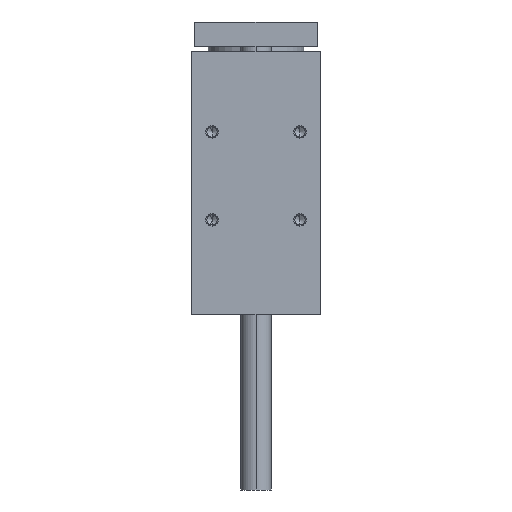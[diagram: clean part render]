
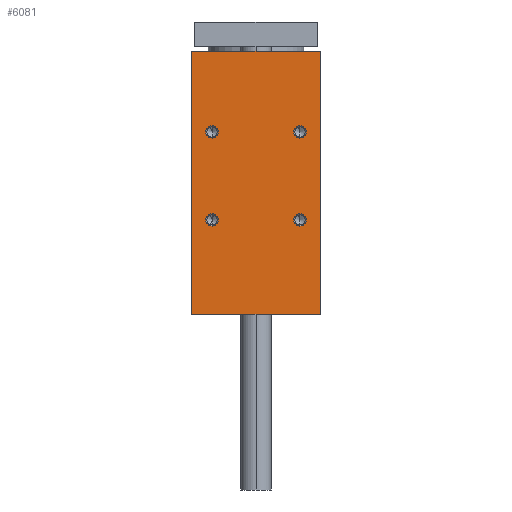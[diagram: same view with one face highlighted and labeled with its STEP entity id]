
A CAD part, left-side view. The second image highlights one B-rep face of the part: STEP entity #6081.
In plain terms, the highlighted planar face has unit normal (-1, 0, 0).
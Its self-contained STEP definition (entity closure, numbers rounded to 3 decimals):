
#256 = CIRCLE ( 'NONE', #7243, 5. ) ;
#286 = CIRCLE ( 'NONE', #9455, 5. ) ;
#326 = VERTEX_POINT ( 'NONE', #5766 ) ;
#388 = CIRCLE ( 'NONE', #5838, 5. ) ;
#503 = CARTESIAN_POINT ( 'NONE',  ( -94.5, 52.5, 87. ) ) ;
#530 = CARTESIAN_POINT ( 'NONE',  ( -94.5, 36., -56. ) ) ;
#564 = EDGE_CURVE ( 'NONE', #5391, #8778, #286, .T. ) ;
#588 = DIRECTION ( 'NONE',  ( 1., 0., 0. ) ) ;
#676 = EDGE_LOOP ( 'NONE', ( #8748, #5791 ) ) ;
#711 = AXIS2_PLACEMENT_3D ( 'NONE', #3611, #1254, #4279 ) ;
#758 = LINE ( 'NONE', #9563, #5033 ) ;
#814 = ORIENTED_EDGE ( 'NONE', *, *, #9425, .T. ) ;
#849 = AXIS2_PLACEMENT_3D ( 'NONE', #1270, #7843, #7945 ) ;
#1186 = CARTESIAN_POINT ( 'NONE',  ( -94.5, -36., 16. ) ) ;
#1195 = ORIENTED_EDGE ( 'NONE', *, *, #8153, .F. ) ;
#1214 = DIRECTION ( 'NONE',  ( 1., 0., 0. ) ) ;
#1254 = DIRECTION ( 'NONE',  ( 1., 0., 0. ) ) ;
#1269 = DIRECTION ( 'NONE',  ( 1., 0., 0. ) ) ;
#1270 = CARTESIAN_POINT ( 'NONE',  ( -94.5, -36., -51. ) ) ;
#1317 = FACE_OUTER_BOUND ( 'NONE', #6699, .T. ) ;
#1327 = VECTOR ( 'NONE', #4295, 1000. ) ;
#1345 = ORIENTED_EDGE ( 'NONE', *, *, #6413, .T. ) ;
#1399 = CARTESIAN_POINT ( 'NONE',  ( -94.5, 52.5, -128. ) ) ;
#1403 = DIRECTION ( 'NONE',  ( 0., 0., 1. ) ) ;
#1644 = VECTOR ( 'NONE', #1403, 1000. ) ;
#1658 = PLANE ( 'NONE',  #1931 ) ;
#1843 = AXIS2_PLACEMENT_3D ( 'NONE', #8409, #1269, #4929 ) ;
#1931 = AXIS2_PLACEMENT_3D ( 'NONE', #5414, #8430, #2303 ) ;
#1939 = CARTESIAN_POINT ( 'NONE',  ( -94.5, -36., 26. ) ) ;
#1953 = CARTESIAN_POINT ( 'NONE',  ( -94.5, 52.5, -128. ) ) ;
#1992 = CIRCLE ( 'NONE', #1843, 5. ) ;
#2014 = VERTEX_POINT ( 'NONE', #9255 ) ;
#2094 = EDGE_CURVE ( 'NONE', #8739, #7296, #4290, .T. ) ;
#2133 = EDGE_CURVE ( 'NONE', #326, #7024, #6153, .T. ) ;
#2153 = CARTESIAN_POINT ( 'NONE',  ( -94.5, 52.5, -128. ) ) ;
#2171 = EDGE_CURVE ( 'NONE', #4091, #4536, #8176, .T. ) ;
#2303 = DIRECTION ( 'NONE',  ( 0., 1., 0. ) ) ;
#2391 = FACE_BOUND ( 'NONE', #5871, .T. ) ;
#2683 = DIRECTION ( 'NONE',  ( 0., 0., -1. ) ) ;
#2710 = EDGE_CURVE ( 'NONE', #8778, #5391, #256, .T. ) ;
#2781 = DIRECTION ( 'NONE',  ( 0., 0., 1. ) ) ;
#2914 = DIRECTION ( 'NONE',  ( 1., 0., 0. ) ) ;
#3369 = EDGE_CURVE ( 'NONE', #4516, #4091, #3762, .T. ) ;
#3375 = AXIS2_PLACEMENT_3D ( 'NONE', #6374, #1214, #5055 ) ;
#3444 = CARTESIAN_POINT ( 'NONE',  ( -94.5, -52.5, -128. ) ) ;
#3611 = CARTESIAN_POINT ( 'NONE',  ( -94.5, 36., 21. ) ) ;
#3614 = CARTESIAN_POINT ( 'NONE',  ( -94.5, -36., -46. ) ) ;
#3626 = ORIENTED_EDGE ( 'NONE', *, *, #3758, .T. ) ;
#3758 = EDGE_CURVE ( 'NONE', #2014, #8864, #5077, .T. ) ;
#3762 = LINE ( 'NONE', #2153, #1327 ) ;
#3896 = ORIENTED_EDGE ( 'NONE', *, *, #3369, .T. ) ;
#4023 = VECTOR ( 'NONE', #2781, 1000. ) ;
#4062 = VERTEX_POINT ( 'NONE', #503 ) ;
#4091 = VERTEX_POINT ( 'NONE', #3444 ) ;
#4279 = DIRECTION ( 'NONE',  ( 0., 0., -1. ) ) ;
#4280 = DIRECTION ( 'NONE',  ( 1., 0., 0. ) ) ;
#4290 = CIRCLE ( 'NONE', #3375, 5. ) ;
#4295 = DIRECTION ( 'NONE',  ( 0., -1., 0. ) ) ;
#4299 = FACE_BOUND ( 'NONE', #8837, .T. ) ;
#4360 = DIRECTION ( 'NONE',  ( 0., -1., 0. ) ) ;
#4386 = EDGE_LOOP ( 'NONE', ( #814, #7177 ) ) ;
#4412 = CARTESIAN_POINT ( 'NONE',  ( -94.5, -36., -51. ) ) ;
#4516 = VERTEX_POINT ( 'NONE', #1953 ) ;
#4536 = VERTEX_POINT ( 'NONE', #5947 ) ;
#4635 = FACE_BOUND ( 'NONE', #676, .T. ) ;
#4929 = DIRECTION ( 'NONE',  ( 0., 0., -1. ) ) ;
#5033 = VECTOR ( 'NONE', #4360, 1000. ) ;
#5055 = DIRECTION ( 'NONE',  ( 0., 0., -1. ) ) ;
#5077 = CIRCLE ( 'NONE', #7242, 5. ) ;
#5083 = ORIENTED_EDGE ( 'NONE', *, *, #2133, .T. ) ;
#5152 = LINE ( 'NONE', #1399, #4023 ) ;
#5288 = DIRECTION ( 'NONE',  ( 0., 0., -1. ) ) ;
#5391 = VERTEX_POINT ( 'NONE', #1186 ) ;
#5414 = CARTESIAN_POINT ( 'NONE',  ( -94.5, 52.5, -128. ) ) ;
#5534 = EDGE_CURVE ( 'NONE', #4062, #4536, #758, .T. ) ;
#5641 = CARTESIAN_POINT ( 'NONE',  ( -94.5, -36., 21. ) ) ;
#5766 = CARTESIAN_POINT ( 'NONE',  ( -94.5, 36., 26. ) ) ;
#5791 = ORIENTED_EDGE ( 'NONE', *, *, #564, .T. ) ;
#5838 = AXIS2_PLACEMENT_3D ( 'NONE', #6622, #588, #5899 ) ;
#5871 = EDGE_LOOP ( 'NONE', ( #5083, #1345 ) ) ;
#5892 = EDGE_CURVE ( 'NONE', #8864, #2014, #7212, .T. ) ;
#5899 = DIRECTION ( 'NONE',  ( 0., 0., -1. ) ) ;
#5947 = CARTESIAN_POINT ( 'NONE',  ( -94.5, -52.5, 87. ) ) ;
#6081 = ADVANCED_FACE ( 'NONE', ( #1317, #4299, #6918, #4635, #2391 ), #1658, .F. ) ;
#6153 = CIRCLE ( 'NONE', #711, 5. ) ;
#6294 = CARTESIAN_POINT ( 'NONE',  ( -94.5, 36., 16. ) ) ;
#6374 = CARTESIAN_POINT ( 'NONE',  ( -94.5, 36., -51. ) ) ;
#6413 = EDGE_CURVE ( 'NONE', #7024, #326, #388, .T. ) ;
#6622 = CARTESIAN_POINT ( 'NONE',  ( -94.5, 36., 21. ) ) ;
#6640 = ORIENTED_EDGE ( 'NONE', *, *, #5892, .T. ) ;
#6685 = CARTESIAN_POINT ( 'NONE',  ( -94.5, 36., -46. ) ) ;
#6699 = EDGE_LOOP ( 'NONE', ( #8107, #7327, #1195, #3896 ) ) ;
#6918 = FACE_BOUND ( 'NONE', #4386, .T. ) ;
#7024 = VERTEX_POINT ( 'NONE', #6294 ) ;
#7177 = ORIENTED_EDGE ( 'NONE', *, *, #2094, .T. ) ;
#7212 = CIRCLE ( 'NONE', #849, 5. ) ;
#7242 = AXIS2_PLACEMENT_3D ( 'NONE', #4412, #2914, #5288 ) ;
#7243 = AXIS2_PLACEMENT_3D ( 'NONE', #9472, #7950, #7805 ) ;
#7296 = VERTEX_POINT ( 'NONE', #6685 ) ;
#7327 = ORIENTED_EDGE ( 'NONE', *, *, #5534, .F. ) ;
#7443 = CARTESIAN_POINT ( 'NONE',  ( -94.5, -52.5, -128. ) ) ;
#7805 = DIRECTION ( 'NONE',  ( 0., 0., -1. ) ) ;
#7843 = DIRECTION ( 'NONE',  ( 1., 0., 0. ) ) ;
#7945 = DIRECTION ( 'NONE',  ( 0., 0., -1. ) ) ;
#7950 = DIRECTION ( 'NONE',  ( 1., 0., 0. ) ) ;
#8107 = ORIENTED_EDGE ( 'NONE', *, *, #2171, .T. ) ;
#8153 = EDGE_CURVE ( 'NONE', #4516, #4062, #5152, .T. ) ;
#8176 = LINE ( 'NONE', #7443, #1644 ) ;
#8409 = CARTESIAN_POINT ( 'NONE',  ( -94.5, 36., -51. ) ) ;
#8430 = DIRECTION ( 'NONE',  ( 1., 0., 0. ) ) ;
#8739 = VERTEX_POINT ( 'NONE', #530 ) ;
#8748 = ORIENTED_EDGE ( 'NONE', *, *, #2710, .T. ) ;
#8778 = VERTEX_POINT ( 'NONE', #1939 ) ;
#8837 = EDGE_LOOP ( 'NONE', ( #6640, #3626 ) ) ;
#8864 = VERTEX_POINT ( 'NONE', #3614 ) ;
#9255 = CARTESIAN_POINT ( 'NONE',  ( -94.5, -36., -56. ) ) ;
#9425 = EDGE_CURVE ( 'NONE', #7296, #8739, #1992, .T. ) ;
#9455 = AXIS2_PLACEMENT_3D ( 'NONE', #5641, #4280, #2683 ) ;
#9472 = CARTESIAN_POINT ( 'NONE',  ( -94.5, -36., 21. ) ) ;
#9563 = CARTESIAN_POINT ( 'NONE',  ( -94.5, 52.5, 87. ) ) ;
